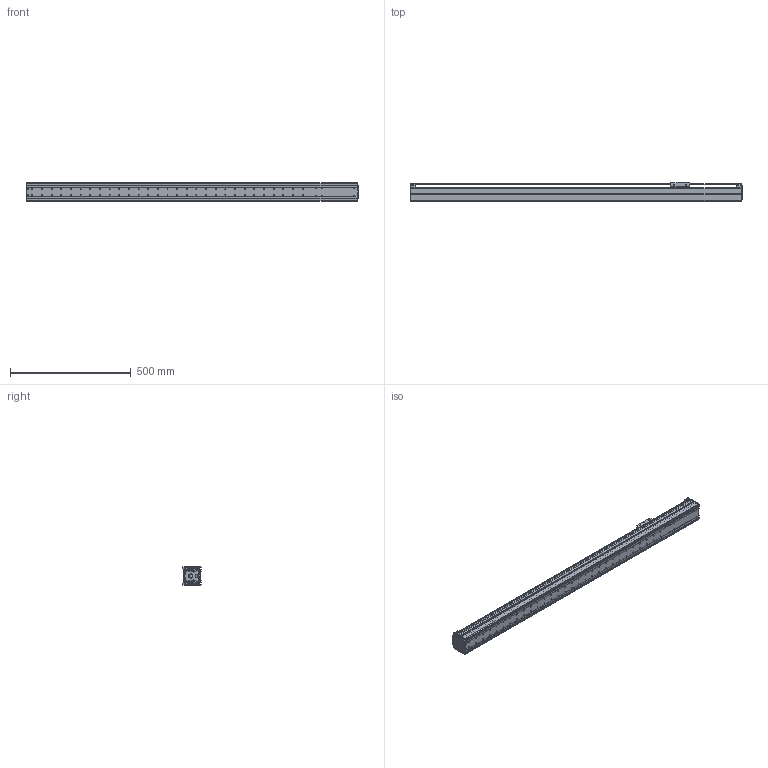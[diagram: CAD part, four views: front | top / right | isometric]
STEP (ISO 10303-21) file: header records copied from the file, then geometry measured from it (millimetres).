
FILE_DESCRIPTION((''),'2;1');
FILE_NAME('BE10E-ST-S_N-A5_IGS_PRT','2017-06-17T',(' '),(''),'PRO/ENGINEER BY PARAMETRIC TECHNOLOGY CORPORATION, 2015030','PRO/ENGINEER BY PARAMETRIC TECHNOLOGY CORPORATION, 2015030','');
FILE_SCHEMA(('CONFIG_CONTROL_DESIGN'));
Length unit declared in the file: millimetre
Products named in the file (1): BE10E-ST-S_N-A5_IGS_PRT
Bounding box: 1375 x 75 x 78 mm (x, y, z)
Volume: 1522548.8 mm3; surface area: 1017035.9 mm2
Topology: 3 solids, 97 shells, 1287 faces, 3467 edges, 2274 vertices
Faces by surface type: cylinder 682, plane 452, torus 64, sphere 42, cone 38, bspline 9
Entity records: 42162 total; most frequent: CARTESIAN_POINT 8938, DIRECTION 7224, ORIENTED_EDGE 6516, EDGE_CURVE 3443, AXIS2_PLACEMENT_3D 2774, VERTEX_POINT 2274, VECTOR 1676, LINE 1676
